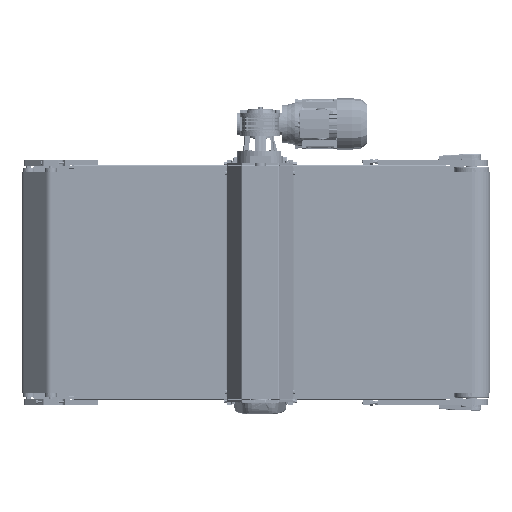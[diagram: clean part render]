
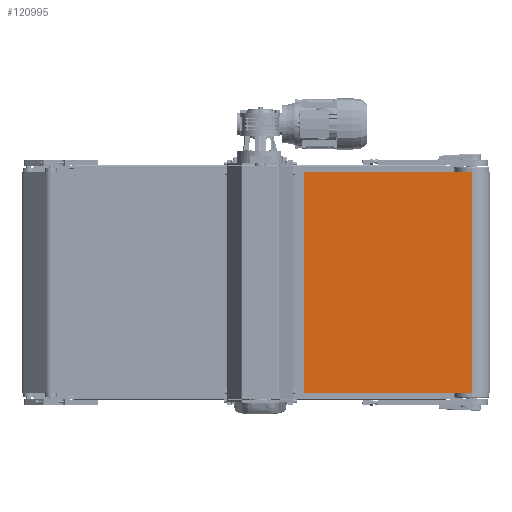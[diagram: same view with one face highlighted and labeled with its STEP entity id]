
A CAD part, front view. The second image highlights one B-rep face of the part: STEP entity #120995.
In plain terms, the highlighted planar face has unit normal (0, -1, 0).
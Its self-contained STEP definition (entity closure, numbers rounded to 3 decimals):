
#1930 = DIRECTION ( 'NONE',  ( 1., 0., 0. ) ) ;
#20621 = DIRECTION ( 'NONE',  ( 0., 0., -1. ) ) ;
#26808 = VECTOR ( 'NONE', #163265, 1000. ) ;
#31253 = CARTESIAN_POINT ( 'NONE',  ( 61., -49.5, 300. ) ) ;
#41612 = LINE ( 'NONE', #172389, #136288 ) ;
#44254 = EDGE_CURVE ( 'NONE', #91933, #227807, #41612, .T. ) ;
#50763 = VERTEX_POINT ( 'NONE', #113561 ) ;
#66882 = DIRECTION ( 'NONE',  ( -1., 0., 0. ) ) ;
#70531 = LINE ( 'NONE', #162000, #26808 ) ;
#73700 = VECTOR ( 'NONE', #1930, 1000. ) ;
#75715 = CARTESIAN_POINT ( 'NONE',  ( 574., -49.5, -300. ) ) ;
#76556 = CARTESIAN_POINT ( 'NONE',  ( 574., -49.5, 300. ) ) ;
#90865 = PLANE ( 'NONE',  #231865 ) ;
#91933 = VERTEX_POINT ( 'NONE', #188599 ) ;
#97443 = DIRECTION ( 'NONE',  ( 0., 0., -1. ) ) ;
#110676 = ORIENTED_EDGE ( 'NONE', *, *, #117485, .F. ) ;
#113561 = CARTESIAN_POINT ( 'NONE',  ( 574., -49.5, 300. ) ) ;
#117485 = EDGE_CURVE ( 'NONE', #50763, #203590, #195862, .T. ) ;
#120995 = ADVANCED_FACE ( 'NONE', ( #201457 ), #90865, .F. ) ;
#125971 = ORIENTED_EDGE ( 'NONE', *, *, #44254, .T. ) ;
#136288 = VECTOR ( 'NONE', #97443, 1000. ) ;
#145518 = DIRECTION ( 'NONE',  ( 0., 1., 0. ) ) ;
#162000 = CARTESIAN_POINT ( 'NONE',  ( 61., -49.5, 300. ) ) ;
#162550 = EDGE_CURVE ( 'NONE', #91933, #50763, #70531, .T. ) ;
#163265 = DIRECTION ( 'NONE',  ( 1., 0., 0. ) ) ;
#164991 = ORIENTED_EDGE ( 'NONE', *, *, #162550, .F. ) ;
#166488 = CARTESIAN_POINT ( 'NONE',  ( 61., -49.5, -300. ) ) ;
#172389 = CARTESIAN_POINT ( 'NONE',  ( 61., -49.5, 300. ) ) ;
#174651 = LINE ( 'NONE', #213992, #73700 ) ;
#183599 = EDGE_LOOP ( 'NONE', ( #247261, #110676, #164991, #125971 ) ) ;
#188599 = CARTESIAN_POINT ( 'NONE',  ( 61., -49.5, 300. ) ) ;
#195862 = LINE ( 'NONE', #76556, #198907 ) ;
#198907 = VECTOR ( 'NONE', #20621, 1000. ) ;
#201457 = FACE_OUTER_BOUND ( 'NONE', #183599, .T. ) ;
#203590 = VERTEX_POINT ( 'NONE', #75715 ) ;
#213032 = EDGE_CURVE ( 'NONE', #227807, #203590, #174651, .T. ) ;
#213992 = CARTESIAN_POINT ( 'NONE',  ( 61., -49.5, -300. ) ) ;
#227807 = VERTEX_POINT ( 'NONE', #166488 ) ;
#231865 = AXIS2_PLACEMENT_3D ( 'NONE', #31253, #145518, #66882 ) ;
#247261 = ORIENTED_EDGE ( 'NONE', *, *, #213032, .T. ) ;
